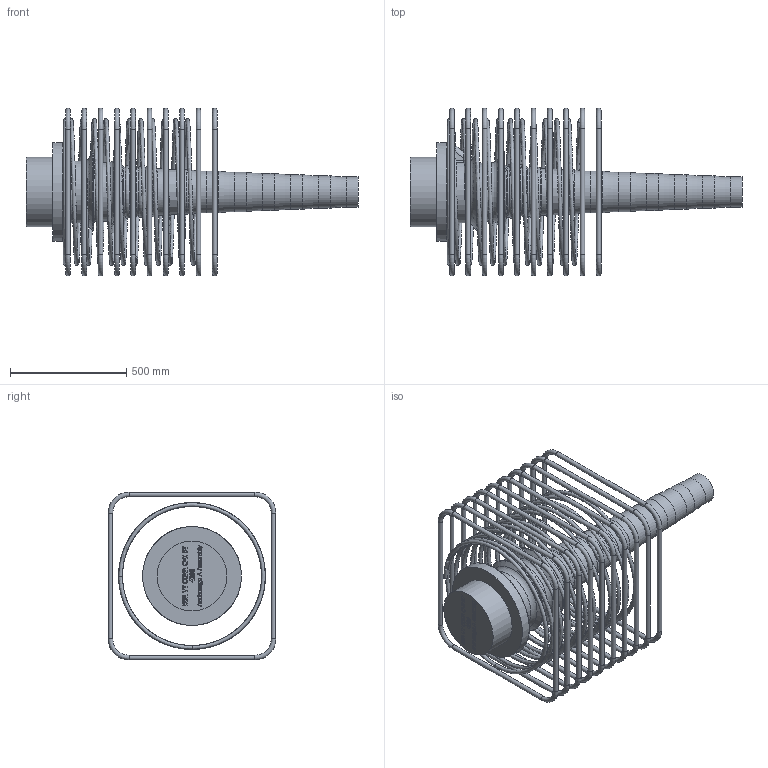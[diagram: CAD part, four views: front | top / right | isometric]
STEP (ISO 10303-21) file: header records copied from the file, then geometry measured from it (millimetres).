
FILE_DESCRIPTION(/* description */ (''),/* implementation_level */ '2;1');
FILE_NAME(/* name */ 'BBR VT CONA CMI BT 4206_Anchorage A Assembly_CS-34,28.stp',/* time_stamp */ '2025-05-21T14:16:31+02:00',/* author */ ('tk'),/* organization */ (''),/* preprocessor_version */ 'ST-DEVELOPER v20',/* originating_system */ 'Autodesk Inventor 2024',/* authorisation */ '');
FILE_SCHEMA (('AUTOMOTIVE_DESIGN { 1 0 10303 214 3 1 1 }'));
Length unit declared in the file: millimetre
Products named in the file (1): BBR VT CONA CMI BT 4206_Anchorage A Assembly_CS-34,28
Bounding box: 1425.3 x 720 x 720 mm (x, y, z)
Volume: 66185450.9 mm3; surface area: 4141530.7 mm2
Topology: 12 solids, 12 shells, 781 faces, 2102 edges, 1380 vertices
Faces by surface type: plane 329, bspline 299, torus 78, cylinder 62, cone 11, sphere 2
Full cylindrical faces by diameter (mm): 20 x40, 35 x1, 57 x1, 129 x1, 139 x1, 149 x1, 159 x1, 169 x1, 179 x1, 251 x1, 300 x1, 333 x1, 348 x1, 425 x1
Entity records: 32709 total; most frequent: CARTESIAN_POINT 14049, ORIENTED_EDGE 4196, DIRECTION 2795, EDGE_CURVE 2098, VERTEX_POINT 1380, LINE 1141, VECTOR 1141, EDGE_LOOP 842
